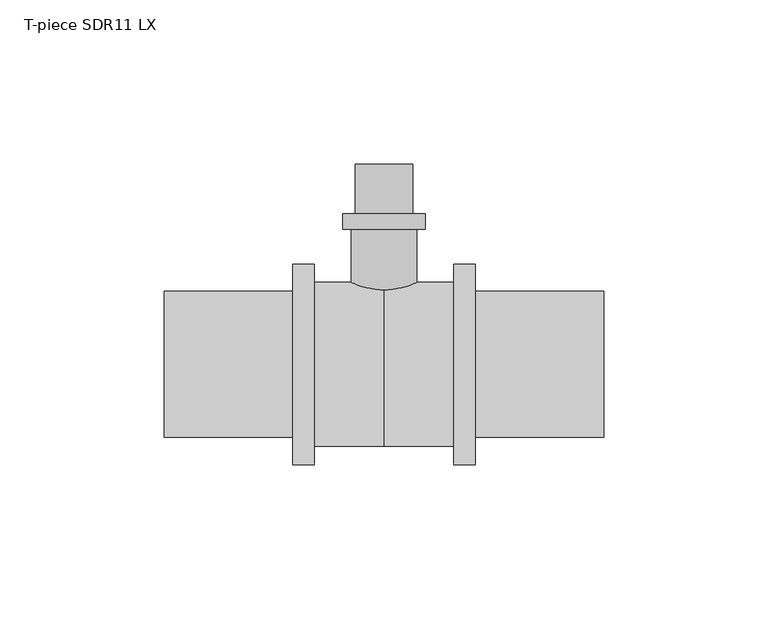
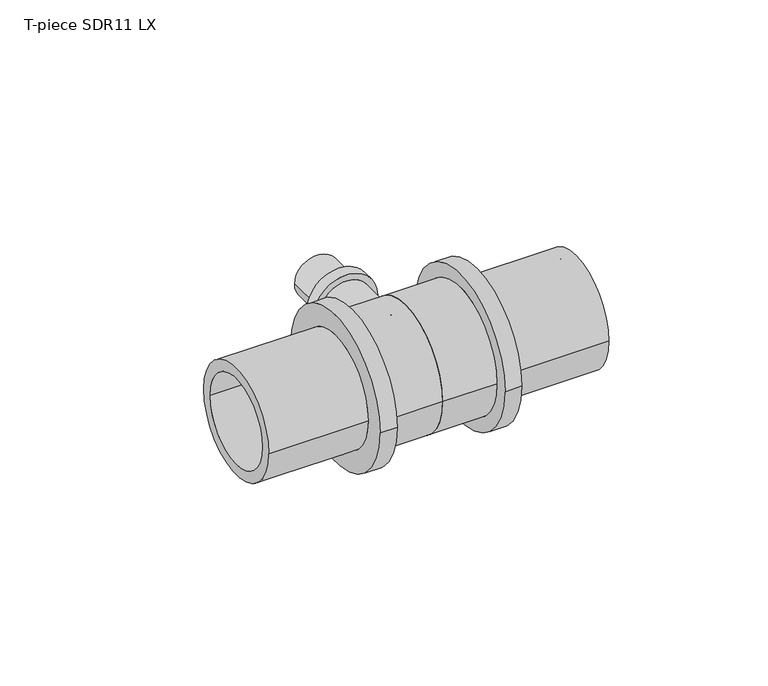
"""IFC4 building model written with IfcOpenShell, lengths in millimetres: pipe fitting geometry, T-piece SDR11 LX : T-piece LX SDR11 LX."""

from ifc_helpers import new_model, si_unit, point, frame, origin, place, context, project, spatial, polyline, circle_curve, ellipse_curve, trimmed, source, transform, mapped, element, save
from ifc_brep_helpers import plane_surface, cylinder_surface, revolved_surface, advanced_brep


def t_piece_sdr11_lx_bd781c14(model_context):
    return source(origin(), model_context, "Body", "AdvancedBrep", [
        advanced_brep(
        [(10.0, 0.8428623, 0.0), (-10.0, 0.8428623, 0.0), (-10.0, 41.1, 0.0), (10.0, 41.1, 0.0), (6.8, 60.8, 0.0), (-6.8, 60.8, 0.0), (-6.8, 0.0, 0.0), (6.8, 0.0, 0.0), (8.8, 45.8, 0.0), (-8.8, 45.8, 0.0), (-8.8, 60.8, 0.0), (8.8, 60.8, 0.0), (12.5, 41.1, 0.0), (-12.5, 41.1, 0.0), (-12.5, 45.8, 0.0), (12.5, 45.8, 0.0)],
        [
            (0, 1, circle_curve(frame((0.0, 0.8428623, 0.0), z_axis=(0.0, 1.0, 0.0), x_axis=(-1.0, 0.0, 0.0)), 10.0)),
            (1, 2),
            (2, 3, circle_curve(frame((0.0, 41.1, 0.0), z_axis=(0.0, -1.0, 0.0), x_axis=(-1.0, 0.0, 0.0)), 10.0)),
            (3, 0),
            (4, 5, circle_curve(frame((0.0, 60.8, 0.0), z_axis=(0.0, 1.0, 0.0), x_axis=(-1.0, 0.0, 0.0)), 6.8)),
            (5, 6),
            (6, 7, circle_curve(frame((0.0, 0.0, 0.0), z_axis=(0.0, -1.0, 0.0), x_axis=(-1.0, 0.0, 0.0)), 6.8)),
            (7, 4),
            (8, 9, circle_curve(frame((0.0, 45.8, 0.0), z_axis=(0.0, 1.0, 0.0), x_axis=(-1.0, 0.0, 0.0)), 8.8)),
            (9, 10),
            (10, 11, circle_curve(frame((0.0, 60.8, 0.0), z_axis=(0.0, -1.0, 0.0), x_axis=(-1.0, 0.0, 0.0)), 8.8)),
            (11, 8),
            (12, 13, circle_curve(frame((0.0, 41.1, 0.0), z_axis=(0.0, 1.0, 0.0), x_axis=(-1.0, 0.0, 0.0)), 12.5)),
            (13, 14),
            (14, 15, circle_curve(frame((0.0, 45.8, 0.0), z_axis=(0.0, -1.0, 0.0), x_axis=(-1.0, 0.0, 0.0)), 12.5)),
            (15, 12),
            (12, 13, circle_curve(frame((0.0, 41.1, 0.0), z_axis=(0.0, -1.0, 0.0), x_axis=(1.0, 0.0, 0.0)), 12.5)),
            (2, 3, circle_curve(frame((0.0, 41.1, 0.0), z_axis=(0.0, 1.0, 0.0), x_axis=(1.0, 0.0, 0.0)), 10.0)),
            (1, 0, circle_curve(frame((0.0, 0.8428623, 0.0), z_axis=(0.0, 1.0, 0.0), x_axis=(1.0, 0.0, 0.0)), 10.0)),
            (5, 4, circle_curve(frame((0.0, 60.8, 0.0), z_axis=(0.0, 1.0, 0.0), x_axis=(1.0, 0.0, 0.0)), 6.8)),
            (7, 6, circle_curve(frame((0.0, 0.0, 0.0), z_axis=(0.0, -1.0, 0.0), x_axis=(1.0, 0.0, 0.0)), 6.8)),
            (10, 11, circle_curve(frame((0.0, 60.8, 0.0), z_axis=(0.0, 1.0, 0.0), x_axis=(1.0, 0.0, 0.0)), 8.8)),
            (9, 8, circle_curve(frame((0.0, 45.8, 0.0), z_axis=(0.0, 1.0, 0.0), x_axis=(1.0, 0.0, 0.0)), 8.8)),
            (14, 15, circle_curve(frame((0.0, 45.8, 0.0), z_axis=(0.0, 1.0, 0.0), x_axis=(1.0, 0.0, 0.0)), 12.5)),
            (6, 1, circle_curve(frame((-2.0462802, 24.5438821, 0.0), z_axis=(0.0, 0.0, -1.0), x_axis=(0.0, -1.0, 0.0)), 25.0)),
            (0, 7, circle_curve(frame((2.0462802, 24.5438821, 0.0), z_axis=(0.0, 0.0, -1.0), x_axis=(0.0, -1.0, 0.0)), 25.0)),
        ],
        [
            cylinder_surface(frame((0.0, 0.0, 0.0), z_axis=(0.0, -1.0, 0.0), x_axis=(-1.0, 0.0, 0.0)), 10.0),
            revolved_surface(polyline([(-6.8, 0.0, 0.0), (-6.8, 60.8, 0.0)]), (0.0, 0.0, 0.0), (0.0, -1.0, 0.0)),
            cylinder_surface(frame((0.0, 0.0, 0.0), z_axis=(0.0, -1.0, 0.0), x_axis=(-1.0, 0.0, 0.0)), 8.8),
            cylinder_surface(frame((0.0, 0.0, 0.0), z_axis=(0.0, -1.0, 0.0), x_axis=(-1.0, 0.0, 0.0)), 12.5),
            plane_surface(frame((0.0, 41.1, 0.0), z_axis=(0.0, -1.0, 0.0), x_axis=(1.0, 0.0, 0.0))),
            cylinder_surface(frame((0.0, 0.0, 0.0), z_axis=(0.0, -1.0, 0.0), x_axis=(1.0, 0.0, 0.0)), 10.0),
            revolved_surface(polyline([(6.8, 0.0, 0.0), (6.8, 60.8, 0.0)]), (0.0, 0.0, 0.0), (0.0, -1.0, 0.0)),
            plane_surface(frame((0.0, 60.8, 0.0), z_axis=(0.0, 1.0, 0.0), x_axis=(1.0, 0.0, 0.0))),
            cylinder_surface(frame((0.0, 0.0, 0.0), z_axis=(0.0, -1.0, 0.0), x_axis=(1.0, 0.0, 0.0)), 8.8),
            plane_surface(frame((0.0, 45.8, 0.0), z_axis=(0.0, 1.0, 0.0), x_axis=(1.0, 0.0, 0.0))),
            cylinder_surface(frame((0.0, 0.0, 0.0), z_axis=(0.0, -1.0, 0.0), x_axis=(1.0, 0.0, 0.0)), 12.5),
            revolved_surface(trimmed(ellipse_curve(frame((-2.0462802, 24.5438821, 0.0), z_axis=(0.0, 0.0, 1.0), x_axis=(0.0, -1.0, 0.0)), 25.0, 25.0), [point((-10.0, 0.8428623, 0.0))], [point((-6.8, 0.0, 0.0))], True, "CARTESIAN"), (0.0, 0.0, 0.0), (0.0, -1.0, 0.0)),
            revolved_surface(trimmed(ellipse_curve(frame((2.0462802, 24.5438821, 0.0), z_axis=(0.0, 0.0, -1.0), x_axis=(0.0, -1.0, 0.0)), 25.0, 25.0), [point((10.0, 0.8428623, 0.0))], [point((6.8, 0.0, 0.0))], True, "CARTESIAN"), (0.0, 0.0, 0.0), (0.0, -1.0, 0.0)),
        ],
        [
            (0, [[1, 2, 3, 4]]),
            (1, [[5, 6, 7, 8]]),
            (2, [[9, 10, 11, 12]]),
            (3, [[13, 14, 15, 16]]),
            (4, [[17, -13], [18, -3]]),
            (5, [[19, -4, -18, -2]]),
            (6, [[20, -8, 21, -6]]),
            (7, [[22, -11], [-20, -5]]),
            (8, [[23, -12, -22, -10]]),
            (9, [[24, -15], [-23, -9]]),
            (10, [[-17, -16, -24, -14]]),
            (11, [[-7, 25, -1, 26]]),
            (12, [[-21, -26, -19, -25]]),
        ],
    ),
        advanced_brep(
        [(21.2, 25.0, 0.0), (21.2, -25.0, 0.0), (0.0, -25.0, 0.0), (0.0, 25.0, 0.0), (0.0, 17.75, 0.0), (0.0, -17.75, 0.0), (66.8, -17.75, 0.0), (66.8, 17.75, 0.0), (66.8, 22.15, 0.0), (66.8, -22.15, 0.0), (27.8, -22.15, 0.0), (27.8, 22.15, 0.0), (27.8, 30.5, 0.0), (27.8, -30.5, 0.0), (21.2, -30.5, 0.0), (21.2, 30.5, 0.0)],
        [
            (0, 1, circle_curve(frame((21.2, 0.0, 0.0), z_axis=(-1.0, 0.0, 0.0), x_axis=(0.0, -1.0, 0.0)), 25.0)),
            (1, 2),
            (2, 3, circle_curve(frame((0.0, 0.0, 0.0), z_axis=(1.0, 0.0, 0.0), x_axis=(0.0, -1.0, 0.0)), 25.0)),
            (3, 0),
            (4, 5, circle_curve(frame((0.0, 0.0, 0.0), z_axis=(-1.0, 0.0, 0.0), x_axis=(0.0, -1.0, 0.0)), 17.75)),
            (5, 6),
            (6, 7, circle_curve(frame((66.8, 0.0, 0.0), z_axis=(1.0, 0.0, 0.0), x_axis=(0.0, -1.0, 0.0)), 17.75)),
            (7, 4),
            (8, 9, circle_curve(frame((66.8, 0.0, 0.0), z_axis=(-1.0, 0.0, 0.0), x_axis=(0.0, -1.0, 0.0)), 22.15)),
            (9, 10),
            (10, 11, circle_curve(frame((27.8, 0.0, 0.0), z_axis=(1.0, 0.0, 0.0), x_axis=(0.0, -1.0, 0.0)), 22.15)),
            (11, 8),
            (12, 13, circle_curve(frame((27.8, 0.0, 0.0), z_axis=(-1.0, 0.0, 0.0), x_axis=(0.0, -1.0, 0.0)), 30.5)),
            (13, 14),
            (14, 15, circle_curve(frame((21.2, 0.0, 0.0), z_axis=(1.0, 0.0, 0.0), x_axis=(0.0, -1.0, 0.0)), 30.5)),
            (15, 12),
            (14, 15, circle_curve(frame((21.2, 0.0, 0.0), z_axis=(-1.0, 0.0, 0.0), x_axis=(0.0, 1.0, 0.0)), 30.5)),
            (0, 1, circle_curve(frame((21.2, 0.0, 0.0), z_axis=(1.0, 0.0, 0.0), x_axis=(0.0, 1.0, 0.0)), 25.0)),
            (3, 2, circle_curve(frame((0.0, 0.0, 0.0), z_axis=(1.0, 0.0, 0.0), x_axis=(0.0, 1.0, 0.0)), 25.0)),
            (4, 5, circle_curve(frame((0.0, 0.0, 0.0), z_axis=(1.0, 0.0, 0.0), x_axis=(0.0, 1.0, 0.0)), 17.75)),
            (7, 6, circle_curve(frame((66.8, 0.0, 0.0), z_axis=(1.0, 0.0, 0.0), x_axis=(0.0, 1.0, 0.0)), 17.75)),
            (8, 9, circle_curve(frame((66.8, 0.0, 0.0), z_axis=(1.0, 0.0, 0.0), x_axis=(0.0, 1.0, 0.0)), 22.15)),
            (11, 10, circle_curve(frame((27.8, 0.0, 0.0), z_axis=(1.0, 0.0, 0.0), x_axis=(0.0, 1.0, 0.0)), 22.15)),
            (12, 13, circle_curve(frame((27.8, 0.0, 0.0), z_axis=(1.0, 0.0, 0.0), x_axis=(0.0, 1.0, 0.0)), 30.5)),
        ],
        [
            cylinder_surface(frame((0.0, 0.0, 0.0), z_axis=(1.0, 0.0, 0.0), x_axis=(0.0, -1.0, 0.0)), 25.0),
            revolved_surface(polyline([(66.8, -17.75, 0.0), (0.0, -17.75, 0.0)]), (0.0, 0.0, 0.0), (1.0, 0.0, 0.0)),
            cylinder_surface(frame((0.0, 0.0, 0.0), z_axis=(1.0, 0.0, 0.0), x_axis=(0.0, -1.0, 0.0)), 22.15),
            cylinder_surface(frame((0.0, 0.0, 0.0), z_axis=(1.0, 0.0, 0.0), x_axis=(0.0, -1.0, 0.0)), 30.5),
            plane_surface(frame((21.2, 0.0, 0.0), z_axis=(-1.0, 0.0, 0.0), x_axis=(0.0, 1.0, 0.0))),
            cylinder_surface(frame((0.0, 0.0, 0.0), z_axis=(1.0, 0.0, 0.0), x_axis=(0.0, 1.0, 0.0)), 25.0),
            plane_surface(frame((0.0, 0.0, 0.0), z_axis=(-1.0, 0.0, 0.0), x_axis=(0.0, 1.0, 0.0))),
            revolved_surface(polyline([(66.8, 17.75, 0.0), (0.0, 17.75, 0.0)]), (0.0, 0.0, 0.0), (1.0, 0.0, 0.0)),
            plane_surface(frame((66.8, 0.0, 0.0), z_axis=(1.0, 0.0, 0.0), x_axis=(0.0, 1.0, 0.0))),
            cylinder_surface(frame((0.0, 0.0, 0.0), z_axis=(1.0, 0.0, 0.0), x_axis=(0.0, 1.0, 0.0)), 22.15),
            plane_surface(frame((27.8, 0.0, 0.0), z_axis=(1.0, 0.0, 0.0), x_axis=(0.0, 1.0, 0.0))),
            cylinder_surface(frame((0.0, 0.0, 0.0), z_axis=(1.0, 0.0, 0.0), x_axis=(0.0, 1.0, 0.0)), 30.5),
        ],
        [
            (0, [[1, 2, 3, 4]]),
            (1, [[5, 6, 7, 8]]),
            (2, [[9, 10, 11, 12]]),
            (3, [[13, 14, 15, 16]]),
            (4, [[17, -15], [18, -1]]),
            (5, [[-18, -4, 19, -2]]),
            (6, [[-19, -3], [20, -5]]),
            (7, [[-20, -8, 21, -6]]),
            (8, [[22, -9], [-21, -7]]),
            (9, [[-22, -12, 23, -10]]),
            (10, [[24, -13], [-23, -11]]),
            (11, [[-24, -16, -17, -14]]),
        ],
    ),
        advanced_brep(
        [(0.0, 25.0, 0.0), (0.0, -25.0, 0.0), (-21.2, -25.0, 0.0), (-21.2, 25.0, 0.0), (-66.8, 17.75, 0.0), (-66.8, -17.75, 0.0), (0.0, -17.75, 0.0), (0.0, 17.75, 0.0), (-27.8, 22.15, 0.0), (-27.8, -22.15, 0.0), (-66.8, -22.15, 0.0), (-66.8, 22.15, 0.0), (-21.2, 30.5, 0.0), (-21.2, -30.5, 0.0), (-27.8, -30.5, 0.0), (-27.8, 30.5, 0.0)],
        [
            (0, 1, circle_curve(frame((0.0, 0.0, 0.0), z_axis=(-1.0, 0.0, 0.0), x_axis=(0.0, -1.0, 0.0)), 25.0)),
            (1, 2),
            (2, 3, circle_curve(frame((-21.2, 0.0, 0.0), z_axis=(1.0, 0.0, 0.0), x_axis=(0.0, -1.0, 0.0)), 25.0)),
            (3, 0),
            (4, 5, circle_curve(frame((-66.8, 0.0, 0.0), z_axis=(-1.0, 0.0, 0.0), x_axis=(0.0, -1.0, 0.0)), 17.75)),
            (5, 6),
            (6, 7, circle_curve(frame((0.0, 0.0, 0.0), z_axis=(1.0, 0.0, 0.0), x_axis=(0.0, -1.0, 0.0)), 17.75)),
            (7, 4),
            (8, 9, circle_curve(frame((-27.8, 0.0, 0.0), z_axis=(-1.0, 0.0, 0.0), x_axis=(0.0, -1.0, 0.0)), 22.15)),
            (9, 10),
            (10, 11, circle_curve(frame((-66.8, 0.0, 0.0), z_axis=(1.0, 0.0, 0.0), x_axis=(0.0, -1.0, 0.0)), 22.15)),
            (11, 8),
            (12, 13, circle_curve(frame((-21.2, 0.0, 0.0), z_axis=(-1.0, 0.0, 0.0), x_axis=(0.0, -1.0, 0.0)), 30.5)),
            (13, 14),
            (14, 15, circle_curve(frame((-27.8, 0.0, 0.0), z_axis=(1.0, 0.0, 0.0), x_axis=(0.0, -1.0, 0.0)), 30.5)),
            (15, 12),
            (12, 13, circle_curve(frame((-21.2, 0.0, 0.0), z_axis=(1.0, 0.0, 0.0), x_axis=(0.0, 1.0, 0.0)), 30.5)),
            (2, 3, circle_curve(frame((-21.2, 0.0, 0.0), z_axis=(-1.0, 0.0, 0.0), x_axis=(0.0, 1.0, 0.0)), 25.0)),
            (1, 0, circle_curve(frame((0.0, 0.0, 0.0), z_axis=(-1.0, 0.0, 0.0), x_axis=(0.0, 1.0, 0.0)), 25.0)),
            (6, 7, circle_curve(frame((0.0, 0.0, 0.0), z_axis=(-1.0, 0.0, 0.0), x_axis=(0.0, 1.0, 0.0)), 17.75)),
            (5, 4, circle_curve(frame((-66.8, 0.0, 0.0), z_axis=(-1.0, 0.0, 0.0), x_axis=(0.0, 1.0, 0.0)), 17.75)),
            (10, 11, circle_curve(frame((-66.8, 0.0, 0.0), z_axis=(-1.0, 0.0, 0.0), x_axis=(0.0, 1.0, 0.0)), 22.15)),
            (9, 8, circle_curve(frame((-27.8, 0.0, 0.0), z_axis=(-1.0, 0.0, 0.0), x_axis=(0.0, 1.0, 0.0)), 22.15)),
            (14, 15, circle_curve(frame((-27.8, 0.0, 0.0), z_axis=(-1.0, 0.0, 0.0), x_axis=(0.0, 1.0, 0.0)), 30.5)),
        ],
        [
            cylinder_surface(frame((0.0, 0.0, 0.0), z_axis=(1.0, 0.0, 0.0), x_axis=(0.0, -1.0, 0.0)), 25.0),
            revolved_surface(polyline([(0.0, -17.75, 0.0), (-66.8, -17.75, 0.0)]), (0.0, 0.0, 0.0), (1.0, 0.0, 0.0)),
            cylinder_surface(frame((0.0, 0.0, 0.0), z_axis=(1.0, 0.0, 0.0), x_axis=(0.0, -1.0, 0.0)), 22.15),
            cylinder_surface(frame((0.0, 0.0, 0.0), z_axis=(1.0, 0.0, 0.0), x_axis=(0.0, -1.0, 0.0)), 30.5),
            plane_surface(frame((-21.2, 0.0, 0.0), z_axis=(1.0, 0.0, 0.0), x_axis=(0.0, 1.0, 0.0))),
            cylinder_surface(frame((0.0, 0.0, 0.0), z_axis=(1.0, 0.0, 0.0), x_axis=(0.0, 1.0, 0.0)), 25.0),
            plane_surface(frame((0.0, 0.0, 0.0), z_axis=(1.0, 0.0, 0.0), x_axis=(0.0, 1.0, 0.0))),
            revolved_surface(polyline([(0.0, 17.75, 0.0), (-66.8, 17.75, 0.0)]), (0.0, 0.0, 0.0), (1.0, 0.0, 0.0)),
            plane_surface(frame((-66.8, 0.0, 0.0), z_axis=(-1.0, 0.0, 0.0), x_axis=(0.0, 1.0, 0.0))),
            cylinder_surface(frame((0.0, 0.0, 0.0), z_axis=(1.0, 0.0, 0.0), x_axis=(0.0, 1.0, 0.0)), 22.15),
            plane_surface(frame((-27.8, 0.0, 0.0), z_axis=(-1.0, 0.0, 0.0), x_axis=(0.0, 1.0, 0.0))),
            cylinder_surface(frame((0.0, 0.0, 0.0), z_axis=(1.0, 0.0, 0.0), x_axis=(0.0, 1.0, 0.0)), 30.5),
        ],
        [
            (0, [[1, 2, 3, 4]]),
            (1, [[5, 6, 7, 8]]),
            (2, [[9, 10, 11, 12]]),
            (3, [[13, 14, 15, 16]]),
            (4, [[17, -13], [18, -3]]),
            (5, [[19, -4, -18, -2]]),
            (6, [[-19, -1], [20, -7]]),
            (7, [[21, -8, -20, -6]]),
            (8, [[22, -11], [-21, -5]]),
            (9, [[23, -12, -22, -10]]),
            (10, [[24, -15], [-23, -9]]),
            (11, [[-17, -16, -24, -14]]),
        ],
    ),
    ])


if __name__ == "__main__":
    model = new_model("IFC4")
    model_context = context("Model", 3, world=origin())
    ifc_project = project(units=[si_unit("LENGTHUNIT", "METRE", prefix="MILLI")], contexts=[model_context])
    site = spatial("IfcSite", under=ifc_project)
    building = spatial("IfcBuilding", under=site)
    placement = place(None, origin())
    t_piece_sdr11_lx_shape = t_piece_sdr11_lx_bd781c14(model_context)
    element("IfcPipeFitting", 1, ObjectType="T-piece SDR11 LX : T-piece LX SDR11 LX", at=placement, inside=building, context=model_context, shape_type="MappedRepresentation", body=[
        mapped(t_piece_sdr11_lx_shape, transform((0.0, 0.0, 0.0), x_axis=(1.0, 0.0, 0.0), y_axis=(0.0, 1.0, 0.0), z_axis=(0.0, 0.0, 1.0))),
    ])
    save(model, "model.ifc")
